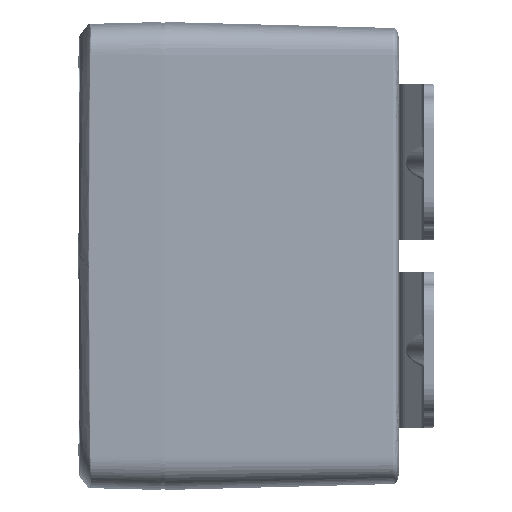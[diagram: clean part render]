
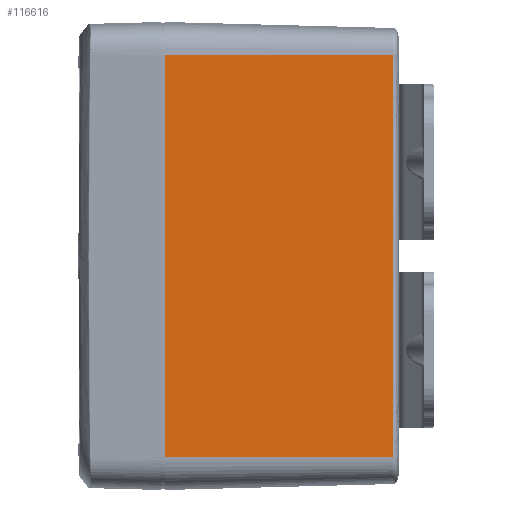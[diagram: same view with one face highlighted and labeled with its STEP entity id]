
A CAD part, left-side view. The second image highlights one B-rep face of the part: STEP entity #116616.
In plain terms, the highlighted planar face has unit normal (-1, -0.026, 0).
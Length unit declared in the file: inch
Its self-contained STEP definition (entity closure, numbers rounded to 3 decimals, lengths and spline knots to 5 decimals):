
#3927 = ORIENTED_EDGE ( 'NONE', *, *, #124940, .F. ) ;
#7410 = DIRECTION ( 'NONE',  ( 0.026, -1., 0. ) ) ;
#9556 = CARTESIAN_POINT ( 'NONE',  ( -2.45222, 0.04671, -1.60995 ) ) ;
#9630 = VERTEX_POINT ( 'NONE', #49582 ) ;
#9813 = VECTOR ( 'NONE', #7410, 39.37008 ) ;
#9990 = EDGE_CURVE ( 'NONE', #96349, #9630, #46551, .T. ) ;
#11269 = EDGE_LOOP ( 'NONE', ( #123175, #76667, #35306, #3927 ) ) ;
#14081 = CARTESIAN_POINT ( 'NONE',  ( -2.5, 1.87125, 1.60995 ) ) ;
#17280 = CARTESIAN_POINT ( 'NONE',  ( -2.5, 1.87125, -1.60995 ) ) ;
#19195 = CARTESIAN_POINT ( 'NONE',  ( -2.5, 1.87125, 1.60995 ) ) ;
#35306 = ORIENTED_EDGE ( 'NONE', *, *, #9990, .F. ) ;
#40368 = AXIS2_PLACEMENT_3D ( 'NONE', #110386, #120751, #87671 ) ;
#41248 = VERTEX_POINT ( 'NONE', #116925 ) ;
#45811 = B_SPLINE_CURVE_WITH_KNOTS ( 'NONE', 3,
 ( #9556, #71049, #113844, #113165 ),
 .UNSPECIFIED., .F., .F.,
 ( 4, 4 ),
 ( 0., 1. ),
 .UNSPECIFIED. ) ;
#46551 = LINE ( 'NONE', #14081, #66264 ) ;
#49582 = CARTESIAN_POINT ( 'NONE',  ( -2.45222, 0.04673, 1.60995 ) ) ;
#50440 = DIRECTION ( 'NONE',  ( 0., 0., 1. ) ) ;
#57556 = EDGE_CURVE ( 'NONE', #103050, #41248, #101299, .T. ) ;
#66264 = VECTOR ( 'NONE', #68585, 39.37008 ) ;
#68585 = DIRECTION ( 'NONE',  ( 0.026, -1., 0. ) ) ;
#71049 = CARTESIAN_POINT ( 'NONE',  ( -2.45222, 0.04673, -0.53665 ) ) ;
#74802 = VECTOR ( 'NONE', #50440, 39.37008 ) ;
#76667 = ORIENTED_EDGE ( 'NONE', *, *, #97520, .T. ) ;
#79337 = FACE_OUTER_BOUND ( 'NONE', #11269, .T. ) ;
#80161 = LINE ( 'NONE', #17280, #74802 ) ;
#81278 = CARTESIAN_POINT ( 'NONE',  ( -2.5, 1.87125, -1.60995 ) ) ;
#87671 = DIRECTION ( 'NONE',  ( 0.026, -1., 0. ) ) ;
#95957 = CARTESIAN_POINT ( 'NONE',  ( -2.5, 1.87125, -1.60995 ) ) ;
#96349 = VERTEX_POINT ( 'NONE', #19195 ) ;
#97520 = EDGE_CURVE ( 'NONE', #41248, #9630, #45811, .T. ) ;
#101299 = LINE ( 'NONE', #81278, #9813 ) ;
#103050 = VERTEX_POINT ( 'NONE', #95957 ) ;
#110386 = CARTESIAN_POINT ( 'NONE',  ( -2.5, 1.87125, -1.60995 ) ) ;
#113165 = CARTESIAN_POINT ( 'NONE',  ( -2.45222, 0.04673, 1.60995 ) ) ;
#113844 = CARTESIAN_POINT ( 'NONE',  ( -2.45222, 0.04673, 0.53665 ) ) ;
#116616 = ADVANCED_FACE ( 'Face2', ( #79337 ), #121414, .T. ) ;
#116925 = CARTESIAN_POINT ( 'NONE',  ( -2.45222, 0.04671, -1.60995 ) ) ;
#120751 = DIRECTION ( 'NONE',  ( -1., -0.026, 0. ) ) ;
#121414 = PLANE ( 'NONE',  #40368 ) ;
#123175 = ORIENTED_EDGE ( 'NONE', *, *, #57556, .T. ) ;
#124940 = EDGE_CURVE ( 'NONE', #103050, #96349, #80161, .T. ) ;
